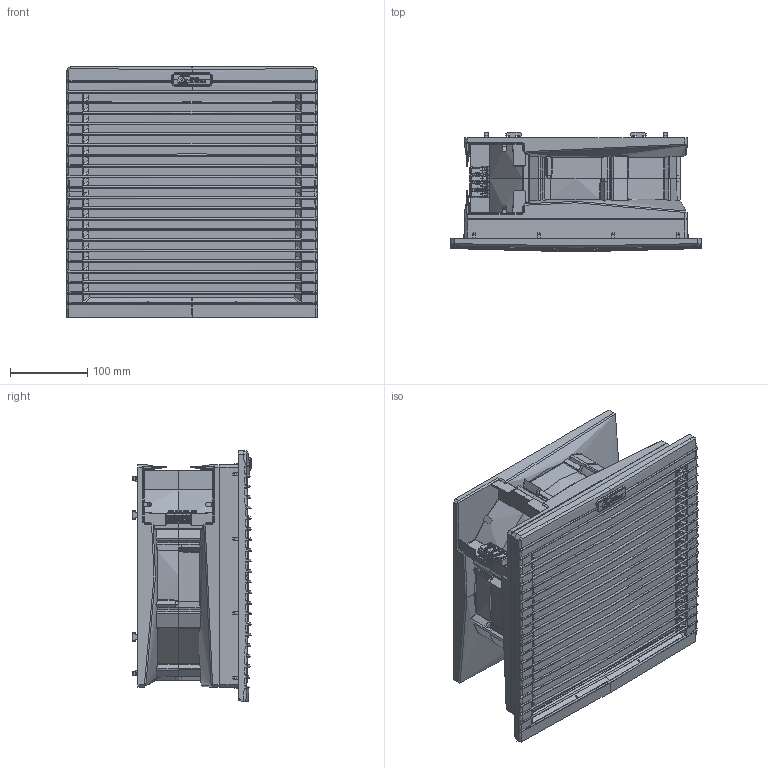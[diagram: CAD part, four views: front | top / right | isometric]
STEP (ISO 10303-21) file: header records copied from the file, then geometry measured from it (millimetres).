
FILE_DESCRIPTION(/* description */ (''),/* implementation_level */ '2;1');
FILE_NAME(/* name */ 'ATV550~1',/* time_stamp */ '2019-02-07T17:04:50+01:00',/* author */ (''),/* organization */ (''),/* preprocessor_version */ 'ST-DEVELOPER v16.5',/* originating_system */ '',/* authorisation */ '');
FILE_SCHEMA (('AUTOMOTIVE_DESIGN'));
Products named in the file (1): Document
Bounding box: 325 x 155.04 x 325 mm (x, y, z)
Surface area: 992651 mm2 (no closed solid volume)
Topology: 0 solids, 5957 shells, 5957 faces, 30223 edges, 29961 vertices
Faces by surface type: bspline 4310, plane 1647
Entity records: 537539 total; most frequent: CARTESIAN_POINT 347598, ORIENTED_EDGE 29942, EDGE_CURVE 29941, VERTEX_POINT 29941, B_SPLINE_CURVE_WITH_KNOTS 25033, EDGE_LOOP 6084, PRESENTATION_LAYER_ASSIGNMENT 5977, SHELL_BASED_SURFACE_MODEL 5957
